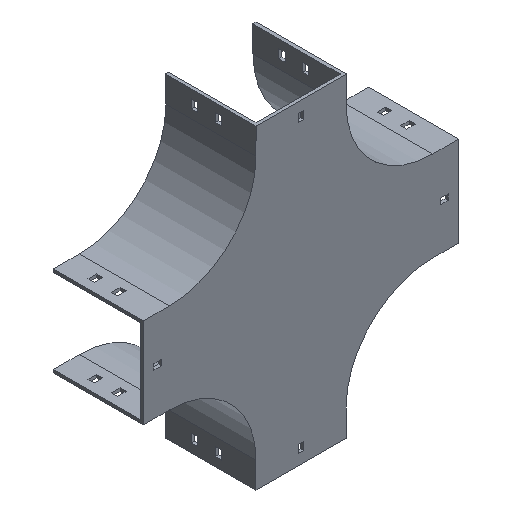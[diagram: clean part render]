
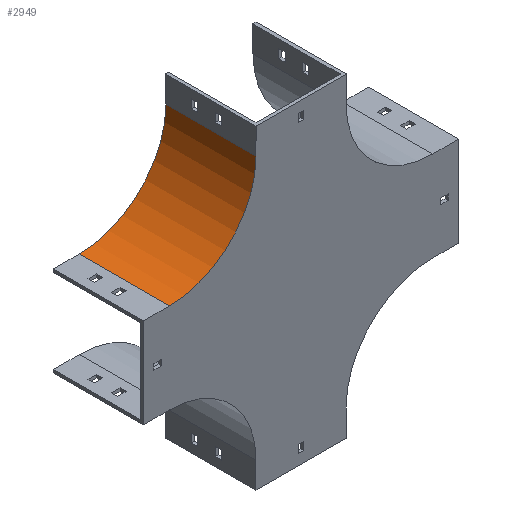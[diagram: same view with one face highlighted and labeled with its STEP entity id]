
A CAD part, isometric view. The second image highlights one B-rep face of the part: STEP entity #2949.
In plain terms, the highlighted cylindrical face has radius 100 mm (diameter 200 mm), a partial arc.
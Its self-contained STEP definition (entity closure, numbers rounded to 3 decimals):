
#52 = EDGE_CURVE ( 'NONE', #1712, #1969, #2881, .T. ) ;
#98 = CARTESIAN_POINT ( 'NONE',  ( -304., 0., 0. ) ) ;
#174 = CARTESIAN_POINT ( 'NONE',  ( -304., 0., -100. ) ) ;
#272 = LINE ( 'NONE', #2694, #1772 ) ;
#283 = EDGE_LOOP ( 'NONE', ( #912, #2096, #2181, #1059 ) ) ;
#365 = CARTESIAN_POINT ( 'NONE',  ( -204., 104., 0. ) ) ;
#487 = EDGE_CURVE ( 'NONE', #1519, #2073, #2238, .T. ) ;
#678 = LINE ( 'NONE', #365, #3448 ) ;
#798 = DIRECTION ( 'NONE',  ( 0., -1., 0. ) ) ;
#836 = AXIS2_PLACEMENT_3D ( 'NONE', #1999, #798, #2885 ) ;
#912 = ORIENTED_EDGE ( 'NONE', *, *, #52, .T. ) ;
#1010 = AXIS2_PLACEMENT_3D ( 'NONE', #1138, #2315, #2982 ) ;
#1022 = EDGE_CURVE ( 'NONE', #2073, #1969, #678, .T. ) ;
#1059 = ORIENTED_EDGE ( 'NONE', *, *, #3397, .T. ) ;
#1082 = FACE_OUTER_BOUND ( 'NONE', #283, .T. ) ;
#1138 = CARTESIAN_POINT ( 'NONE',  ( -304., 104., 0. ) ) ;
#1246 = AXIS2_PLACEMENT_3D ( 'NONE', #98, #1287, #3353 ) ;
#1287 = DIRECTION ( 'NONE',  ( 0., -1., 0. ) ) ;
#1519 = VERTEX_POINT ( 'NONE', #3242 ) ;
#1533 = DIRECTION ( 'NONE',  ( 0., -1., 0. ) ) ;
#1711 = CARTESIAN_POINT ( 'NONE',  ( -204., 0., 0. ) ) ;
#1712 = VERTEX_POINT ( 'NONE', #174 ) ;
#1772 = VECTOR ( 'NONE', #2312, 1000. ) ;
#1797 = CARTESIAN_POINT ( 'NONE',  ( -204., 104., 0. ) ) ;
#1969 = VERTEX_POINT ( 'NONE', #1711 ) ;
#1999 = CARTESIAN_POINT ( 'NONE',  ( -304., 104., 0. ) ) ;
#2073 = VERTEX_POINT ( 'NONE', #1797 ) ;
#2096 = ORIENTED_EDGE ( 'NONE', *, *, #1022, .F. ) ;
#2181 = ORIENTED_EDGE ( 'NONE', *, *, #487, .F. ) ;
#2238 = CIRCLE ( 'NONE', #1010, 100. ) ;
#2312 = DIRECTION ( 'NONE',  ( 0., -1., 0. ) ) ;
#2315 = DIRECTION ( 'NONE',  ( 0., -1., 0. ) ) ;
#2694 = CARTESIAN_POINT ( 'NONE',  ( -304., 104., -100. ) ) ;
#2881 = CIRCLE ( 'NONE', #1246, 100. ) ;
#2885 = DIRECTION ( 'NONE',  ( 0., 0., -1. ) ) ;
#2949 = ADVANCED_FACE ( 'NONE', ( #1082 ), #3441, .F. ) ;
#2982 = DIRECTION ( 'NONE',  ( 0., 0., 1. ) ) ;
#3242 = CARTESIAN_POINT ( 'NONE',  ( -304., 104., -100. ) ) ;
#3353 = DIRECTION ( 'NONE',  ( 0., 0., 1. ) ) ;
#3397 = EDGE_CURVE ( 'NONE', #1519, #1712, #272, .T. ) ;
#3441 = CYLINDRICAL_SURFACE ( 'NONE', #836, 100. ) ;
#3448 = VECTOR ( 'NONE', #1533, 1000. ) ;
